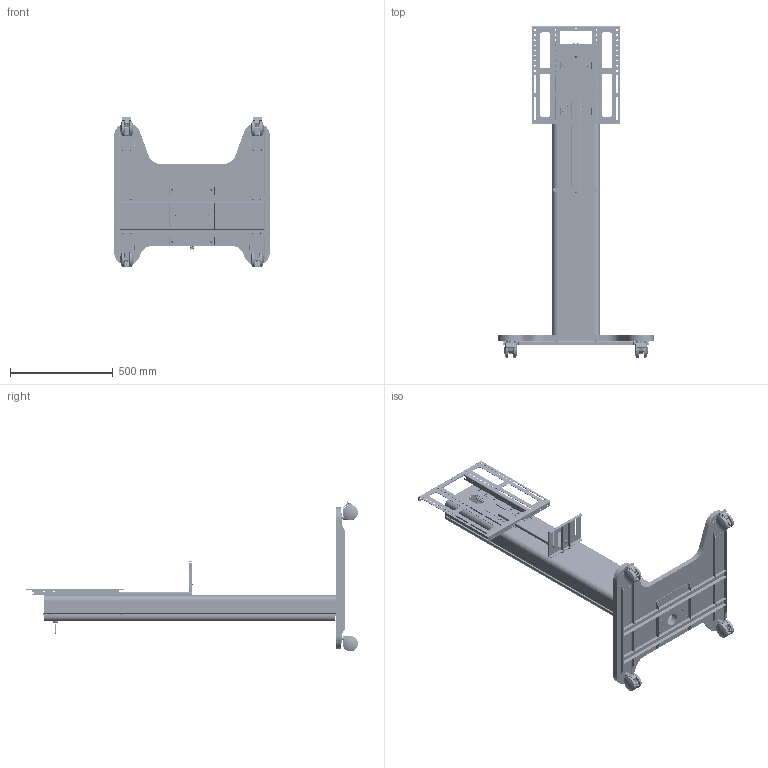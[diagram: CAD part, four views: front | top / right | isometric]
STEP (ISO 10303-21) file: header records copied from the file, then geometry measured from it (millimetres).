
FILE_DESCRIPTION (( 'STEP AP203' ), '1' );
FILE_NAME ('AV-VC Intro + camera mount - AVS-031.STEP', '2016-11-07T16:05:17', ( 'a' ), ( 'Microsoft' ), 'SwSTEP 2.0', 'SolidWorks 2016', '' );
FILE_SCHEMA (( 'CONFIG_CONTROL_DESIGN' ));
Length unit declared in the file: millimetre
Products named in the file (53): AVS-003-A04-A; P038-05; PEM S-M8-2 ZI-N; 75mm DIA TENTE CASTOR UN-BRAKED; P038-41; P038-A24; P038-14; P038-04; P038-A08; M10 WASHER BZP; M5x18 Clinch Stud TRfastenings; P038-08; P038-A25; P038-23; P038-15; P038-A06; P038-A09; P038-A31; M6 x 13 D NUT THREADED INSERT; P038-39; P038-25; M4x8 SBH BZP; M6x16 SBH BZP; P038-10; P038-A30; P038-A07; PEM-S-M6-1-ZI; COTEL G50450; M4 HEX NUT; P038-A05; P038-A10; AV-VC Intro + camera mount - AVS-031; P038-09; P038-40; P038-A11; P038-34; P038-01; P038-11; PEM S-M10-1 ZI-N; P038-A29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
Assembly tree (112 placements, depth 5):
  AV-VC Intro + camera mount - AVS-031
    P038-A05
      P038-A07
        P038-08
        M6 x 13 D NUT THREADED INSERT  x16
      P038-A06
        P038-A09
          P038-09
          PEM S-M10-1 ZI-N  x2
          TENTE S70-10x15-10  x2
          75mm DIA TENTE CASTOR BRAKED
          75mm DIA TENTE CASTOR UN-BRAKED
          M10 WASHER BZP  x2
        P038-A10
          P038-10
          PEM S-M10-1 ZI-N  x2
          TENTE S70-10x15-10  x2
          75mm DIA TENTE CASTOR UN-BRAKED
          75mm DIA TENTE CASTOR BRAKED
          M10 WASHER BZP  x2
        P038-11  x2
        P038-A08
          P038-12
          P034-49  x2
          PEM S-M8-2 ZI-N  x4
      M6x16 SBH BZP  x16
    P038-A02
      P038-A04
        P038-01
        P038-03
        P038-02
        P038-05  x2
        P038-04
        P038-15
        M4x8 SBH BZP  x2
        M4 HEX NUT  x2
        P038-34
      P038-A11
        P038-13
        AVS-003-A04-A
        P038-14
        P038-23
        P038-25
        COTEL G50450  x8
    P038-A25
      P038-A24
        P038-36
        PEM S-M8-1 ZI-N  x4
    P038-A30
      P038-A29
        P038-39
        PEM-S-M6-1-ZI  x2
        P038-40
      WDS 520-202 M5 THUMB NUT STEEL
      M5 WASHER BS4320 FORM C BZP
      P038-A31
        P038-41
        M5x18 Clinch Stud TRfastenings
Bounding box: 760 x 1616.43 x 733.11 mm (x, y, z)
Volume: 13215817.8 mm3; surface area: 4705718.9 mm2
Topology: 459 solids, 526 shells, 23338 faces, 59134 edges, 36554 vertices
Faces by surface type: plane 9911, cylinder 6060, bspline 5531, cone 1728, torus 88, sphere 20
Entity records: 573841 total; most frequent: CARTESIAN_POINT 289837, ORIENTED_EDGE 64209, DIRECTION 47974, EDGE_CURVE 32106, VERTEX_POINT 19980, AXIS2_PLACEMENT_3D 16671, LINE 14632, VECTOR 14632
